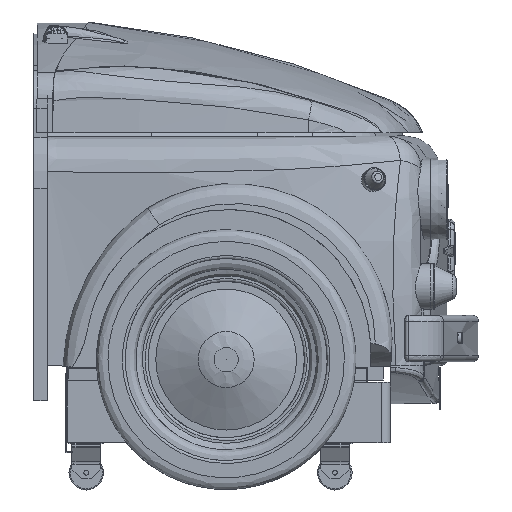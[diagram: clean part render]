
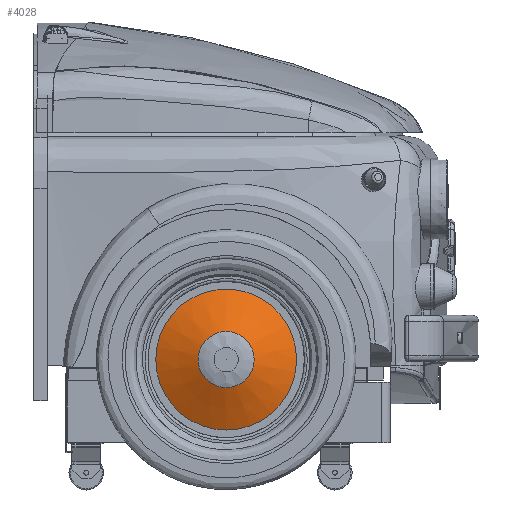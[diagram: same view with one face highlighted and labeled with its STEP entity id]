
A CAD part, left-side view. The second image highlights one B-rep face of the part: STEP entity #4028.
In plain terms, the highlighted conical face has half-angle 65.453 degrees and reference radius 48.594 mm.
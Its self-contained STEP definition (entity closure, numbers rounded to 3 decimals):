
#972=FACE_BOUND('',#8100,.T.);
#973=FACE_BOUND('',#8101,.T.);
#2435=CONICAL_SURFACE('',#31363,48.594,65.453);
#2785=CIRCLE('',#31361,122.102);
#2786=CIRCLE('',#31362,48.594);
#4028=ADVANCED_FACE('',(#972,#973),#2435,.T.);
#8100=EDGE_LOOP('',(#16516));
#8101=EDGE_LOOP('',(#16517));
#16516=ORIENTED_EDGE('',*,*,#26176,.F.);
#16517=ORIENTED_EDGE('',*,*,#26177,.T.);
#22751=VERTEX_POINT('',#69671);
#22752=VERTEX_POINT('',#69673);
#26176=EDGE_CURVE('',#22751,#22751,#2785,.T.);
#26177=EDGE_CURVE('',#22752,#22752,#2786,.T.);
#31361=AXIS2_PLACEMENT_3D('',#69670,#35483,#35484);
#31362=AXIS2_PLACEMENT_3D('',#69672,#35485,#35486);
#31363=AXIS2_PLACEMENT_3D('',#69674,#35487,#35488);
#35483=DIRECTION('',(1.,0.,0.));
#35484=DIRECTION('',(0.,0.,-1.));
#35485=DIRECTION('',(1.,0.,0.));
#35486=DIRECTION('',(0.,0.,-1.));
#35487=DIRECTION('',(1.,0.,0.));
#35488=DIRECTION('',(0.,0.,-1.));
#69670=CARTESIAN_POINT('',(-279.012,703.767,-383.922));
#69671=CARTESIAN_POINT('',(-279.012,703.767,-506.024));
#69672=CARTESIAN_POINT('',(-312.585,703.767,-383.922));
#69673=CARTESIAN_POINT('',(-312.585,703.767,-432.517));
#69674=CARTESIAN_POINT('',(-312.585,703.767,-383.922));
